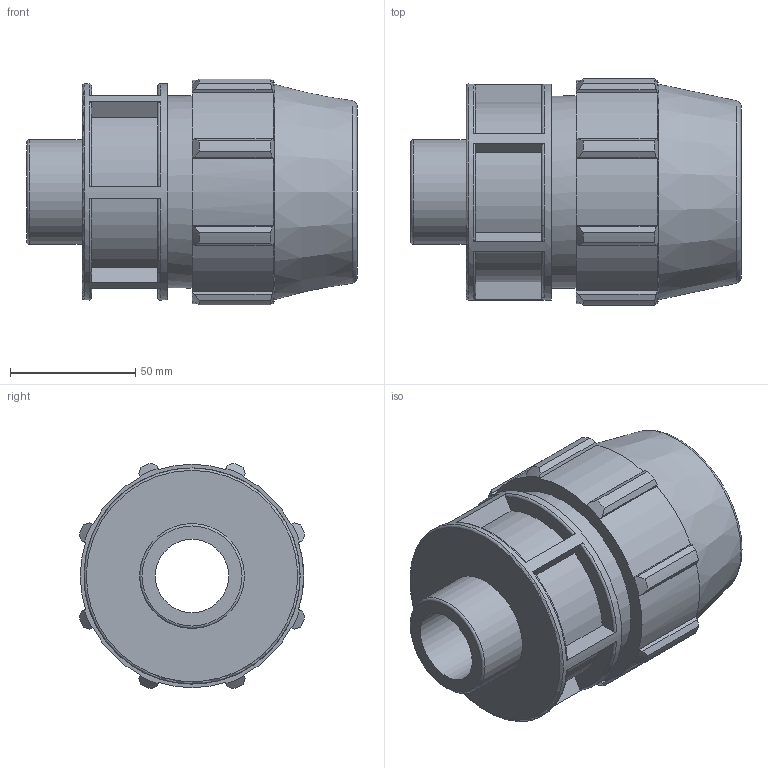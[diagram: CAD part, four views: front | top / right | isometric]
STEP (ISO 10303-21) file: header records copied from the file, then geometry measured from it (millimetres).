
FILE_DESCRIPTION(/* description */ ('PLASSON MALE ADAPTOR 1 1/2'''' - 1 1/4''''M'),/* implementation_level */ '2;1');
FILE_NAME(/* name */ 'C:\Dropbox\KIMPROJECTS-Inventor 2019\99-16-3568-Processing Inch\ASTM Compression 2021\0702M0T\0702M0T15013.ipt.stp',/* time_stamp */ '2021-08-26T12:30:21+03:00',/* author */ ('KIM'),/* organization */ (''),/* preprocessor_version */ 'ST-DEVELOPER v17.2',/* originating_system */ 'Autodesk Inventor 2019',/* authorisation */ '');
FILE_SCHEMA (('AUTOMOTIVE_DESIGN { 1 0 10303 214 3 1 1 }'));
Length unit declared in the file: inch
Products named in the file (1): 0702M0T15013
Bounding box: 132.08 x 90.34 x 90.34 mm (x, y, z)
Volume: 393949.7 mm3; surface area: 68392.4 mm2
Topology: 1 solids, 1 shells, 117 faces, 327 edges, 223 vertices
Faces by surface type: plane 63, cylinder 27, torus 15, cone 12
Full cylindrical faces by diameter (mm): 29.337 x1, 41.91 x1, 48.1 x1, 76.81 x1, 86.411 x1
Entity records: 4135 total; most frequent: CARTESIAN_POINT 948, ORIENTED_EDGE 654, DIRECTION 625, EDGE_CURVE 327, AXIS2_PLACEMENT_3D 236, VERTEX_POINT 223, LINE 153, VECTOR 153
